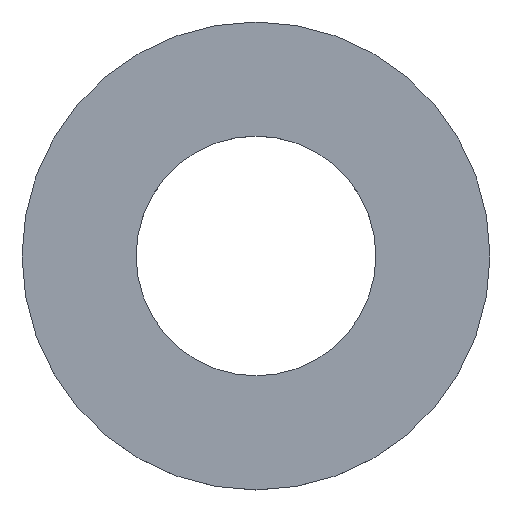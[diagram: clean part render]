
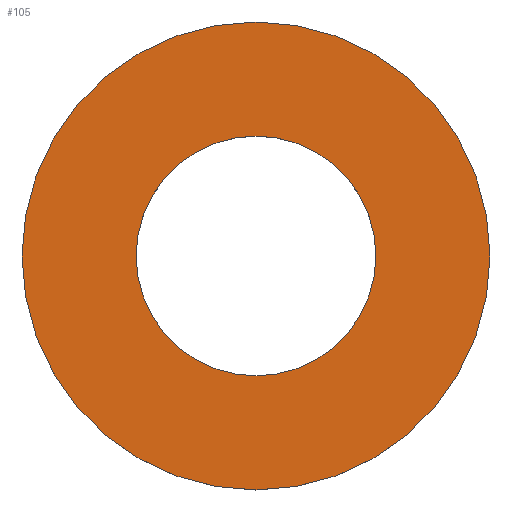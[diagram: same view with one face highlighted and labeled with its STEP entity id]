
A CAD part, top view. The second image highlights one B-rep face of the part: STEP entity #105.
In plain terms, the highlighted planar face has unit normal (0, 0, 1).
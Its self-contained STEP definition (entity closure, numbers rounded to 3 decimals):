
#21 = EDGE_CURVE('',#22,#22,#24,.T.);
#22 = VERTEX_POINT('',#23);
#23 = CARTESIAN_POINT('',(8.,0.,-105.6));
#24 = SURFACE_CURVE('',#25,(#30,#42),.PCURVE_S1.);
#25 = CIRCLE('',#26,8.);
#26 = AXIS2_PLACEMENT_3D('',#27,#28,#29);
#27 = CARTESIAN_POINT('',(0.,0.,-105.6));
#28 = DIRECTION('',(0.,0.,1.));
#29 = DIRECTION('',(1.,0.,-0.));
#30 = PCURVE('',#31,#36);
#31 = CYLINDRICAL_SURFACE('',#32,8.);
#32 = AXIS2_PLACEMENT_3D('',#33,#34,#35);
#33 = CARTESIAN_POINT('',(0.,0.,-106.2));
#34 = DIRECTION('',(0.,0.,1.));
#35 = DIRECTION('',(1.,0.,-0.));
#36 = DEFINITIONAL_REPRESENTATION('',(#37),#41);
#37 = LINE('',#38,#39);
#38 = CARTESIAN_POINT('',(0.,0.6));
#39 = VECTOR('',#40,1.);
#40 = DIRECTION('',(1.,0.));
#41 = ( GEOMETRIC_REPRESENTATION_CONTEXT(2) 
PARAMETRIC_REPRESENTATION_CONTEXT() REPRESENTATION_CONTEXT('2D SPACE',''
  ) );
#42 = PCURVE('',#43,#48);
#43 = PLANE('',#44);
#44 = AXIS2_PLACEMENT_3D('',#45,#46,#47);
#45 = CARTESIAN_POINT('',(0.,0.,-105.6));
#46 = DIRECTION('',(0.,0.,1.));
#47 = DIRECTION('',(1.,0.,-0.));
#48 = DEFINITIONAL_REPRESENTATION('',(#49),#53);
#49 = CIRCLE('',#50,8.);
#50 = AXIS2_PLACEMENT_2D('',#51,#52);
#51 = CARTESIAN_POINT('',(0.,0.));
#52 = DIRECTION('',(1.,0.));
#53 = ( GEOMETRIC_REPRESENTATION_CONTEXT(2) 
PARAMETRIC_REPRESENTATION_CONTEXT() REPRESENTATION_CONTEXT('2D SPACE',''
  ) );
#105 = ADVANCED_FACE('',(#106,#109),#43,.T.);
#106 = FACE_BOUND('',#107,.T.);
#107 = EDGE_LOOP('',(#108));
#108 = ORIENTED_EDGE('',*,*,#21,.T.);
#109 = FACE_BOUND('',#110,.T.);
#110 = EDGE_LOOP('',(#111));
#111 = ORIENTED_EDGE('',*,*,#112,.F.);
#112 = EDGE_CURVE('',#113,#113,#115,.T.);
#113 = VERTEX_POINT('',#114);
#114 = CARTESIAN_POINT('',(4.1,0.,-105.6));
#115 = SURFACE_CURVE('',#116,(#121,#128),.PCURVE_S1.);
#116 = CIRCLE('',#117,4.1);
#117 = AXIS2_PLACEMENT_3D('',#118,#119,#120);
#118 = CARTESIAN_POINT('',(0.,0.,-105.6));
#119 = DIRECTION('',(0.,0.,1.));
#120 = DIRECTION('',(1.,0.,-0.));
#121 = PCURVE('',#43,#122);
#122 = DEFINITIONAL_REPRESENTATION('',(#123),#127);
#123 = CIRCLE('',#124,4.1);
#124 = AXIS2_PLACEMENT_2D('',#125,#126);
#125 = CARTESIAN_POINT('',(0.,0.));
#126 = DIRECTION('',(1.,0.));
#127 = ( GEOMETRIC_REPRESENTATION_CONTEXT(2) 
PARAMETRIC_REPRESENTATION_CONTEXT() REPRESENTATION_CONTEXT('2D SPACE',''
  ) );
#128 = PCURVE('',#129,#134);
#129 = CYLINDRICAL_SURFACE('',#130,4.1);
#130 = AXIS2_PLACEMENT_3D('',#131,#132,#133);
#131 = CARTESIAN_POINT('',(0.,0.,-106.4));
#132 = DIRECTION('',(0.,0.,1.));
#133 = DIRECTION('',(1.,0.,-0.));
#134 = DEFINITIONAL_REPRESENTATION('',(#135),#139);
#135 = LINE('',#136,#137);
#136 = CARTESIAN_POINT('',(0.,0.8));
#137 = VECTOR('',#138,1.);
#138 = DIRECTION('',(1.,0.));
#139 = ( GEOMETRIC_REPRESENTATION_CONTEXT(2) 
PARAMETRIC_REPRESENTATION_CONTEXT() REPRESENTATION_CONTEXT('2D SPACE',''
  ) );
